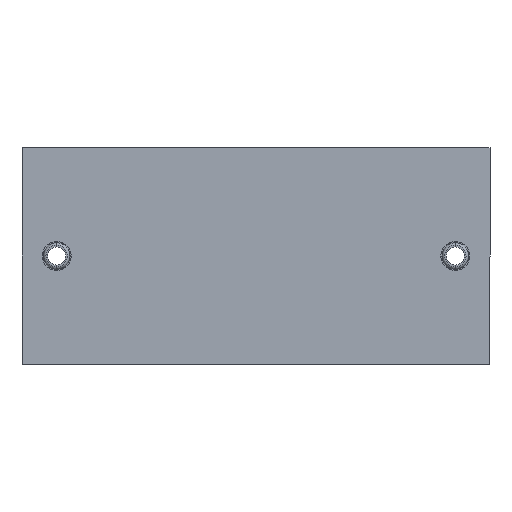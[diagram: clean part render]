
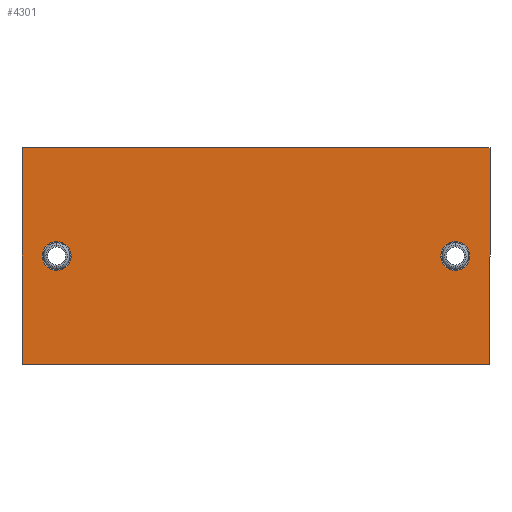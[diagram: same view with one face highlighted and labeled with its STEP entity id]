
A CAD part, front view. The second image highlights one B-rep face of the part: STEP entity #4301.
In plain terms, the highlighted planar face has unit normal (0, -1, 0).
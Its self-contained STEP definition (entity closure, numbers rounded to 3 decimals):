
#290 = VERTEX_POINT ( 'NONE', #13779 ) ;
#436 = ORIENTED_EDGE ( 'NONE', *, *, #15149, .F. ) ;
#525 = FACE_BOUND ( 'NONE', #15447, .T. ) ;
#715 = EDGE_CURVE ( 'NONE', #13722, #18007, #2105, .T. ) ;
#841 = VECTOR ( 'NONE', #21264, 1000. ) ;
#877 = AXIS2_PLACEMENT_3D ( 'NONE', #15102, #15246, #13052 ) ;
#1395 = DIRECTION ( 'NONE',  ( 0., 1., 0. ) ) ;
#1432 = DIRECTION ( 'NONE',  ( 1., 0., 0. ) ) ;
#1435 = AXIS2_PLACEMENT_3D ( 'NONE', #8102, #1395, #13229 ) ;
#1548 = FACE_OUTER_BOUND ( 'NONE', #1641, .T. ) ;
#1641 = EDGE_LOOP ( 'NONE', ( #9123, #10666, #436, #10411 ) ) ;
#2105 = CIRCLE ( 'NONE', #1435, 3.35 ) ;
#2137 = ORIENTED_EDGE ( 'NONE', *, *, #3653, .F. ) ;
#2320 = VERTEX_POINT ( 'NONE', #14684 ) ;
#2382 = CIRCLE ( 'NONE', #877, 3.35 ) ;
#2853 = CARTESIAN_POINT ( 'NONE',  ( 108., 0., 0. ) ) ;
#2970 = ORIENTED_EDGE ( 'NONE', *, *, #19352, .F. ) ;
#3653 = EDGE_CURVE ( 'NONE', #3951, #290, #2382, .T. ) ;
#3863 = CARTESIAN_POINT ( 'NONE',  ( 8., 0., -21.65 ) ) ;
#3951 = VERTEX_POINT ( 'NONE', #3863 ) ;
#4301 = ADVANCED_FACE ( 'NONE', ( #9296, #525, #1548 ), #6375, .T. ) ;
#4415 = CARTESIAN_POINT ( 'NONE',  ( 0., 0., -50. ) ) ;
#4728 = CARTESIAN_POINT ( 'NONE',  ( 0., 0., 0. ) ) ;
#5118 = VERTEX_POINT ( 'NONE', #20449 ) ;
#5202 = ORIENTED_EDGE ( 'NONE', *, *, #12033, .T. ) ;
#5259 = EDGE_CURVE ( 'NONE', #5118, #2320, #18116, .T. ) ;
#5424 = DIRECTION ( 'NONE',  ( 0., -1., 0. ) ) ;
#5870 = DIRECTION ( 'NONE',  ( 0., 1., 0. ) ) ;
#6183 = VECTOR ( 'NONE', #20530, 1000. ) ;
#6375 = PLANE ( 'NONE',  #16592 ) ;
#7196 = LINE ( 'NONE', #17228, #6183 ) ;
#7942 = DIRECTION ( 'NONE',  ( 0., -1., 0. ) ) ;
#8059 = CARTESIAN_POINT ( 'NONE',  ( 100., 0., -28.35 ) ) ;
#8102 = CARTESIAN_POINT ( 'NONE',  ( 100., 0., -25. ) ) ;
#8559 = VERTEX_POINT ( 'NONE', #14833 ) ;
#8561 = LINE ( 'NONE', #18023, #841 ) ;
#8731 = CIRCLE ( 'NONE', #14615, 3.35 ) ;
#9123 = ORIENTED_EDGE ( 'NONE', *, *, #13226, .F. ) ;
#9296 = FACE_BOUND ( 'NONE', #11803, .T. ) ;
#10411 = ORIENTED_EDGE ( 'NONE', *, *, #5259, .F. ) ;
#10666 = ORIENTED_EDGE ( 'NONE', *, *, #12311, .F. ) ;
#10876 = CIRCLE ( 'NONE', #15962, 3.35 ) ;
#11803 = EDGE_LOOP ( 'NONE', ( #5202, #18535 ) ) ;
#12033 = EDGE_CURVE ( 'NONE', #18007, #13722, #10876, .T. ) ;
#12311 = EDGE_CURVE ( 'NONE', #8559, #17834, #8561, .T. ) ;
#13052 = DIRECTION ( 'NONE',  ( 0., 0., -1. ) ) ;
#13226 = EDGE_CURVE ( 'NONE', #17834, #5118, #7196, .T. ) ;
#13229 = DIRECTION ( 'NONE',  ( 0., 0., -1. ) ) ;
#13722 = VERTEX_POINT ( 'NONE', #16743 ) ;
#13779 = CARTESIAN_POINT ( 'NONE',  ( 8., 0., -28.35 ) ) ;
#14374 = DIRECTION ( 'NONE',  ( 0., 0., -1. ) ) ;
#14615 = AXIS2_PLACEMENT_3D ( 'NONE', #15291, #5424, #16930 ) ;
#14684 = CARTESIAN_POINT ( 'NONE',  ( 108., 0., 0. ) ) ;
#14833 = CARTESIAN_POINT ( 'NONE',  ( 108., 0., -50. ) ) ;
#15102 = CARTESIAN_POINT ( 'NONE',  ( 8., 0., -25. ) ) ;
#15149 = EDGE_CURVE ( 'NONE', #2320, #8559, #21116, .T. ) ;
#15246 = DIRECTION ( 'NONE',  ( 0., -1., 0. ) ) ;
#15291 = CARTESIAN_POINT ( 'NONE',  ( 8., 0., -25. ) ) ;
#15447 = EDGE_LOOP ( 'NONE', ( #2970, #2137 ) ) ;
#15738 = CARTESIAN_POINT ( 'NONE',  ( 100., 0., -25. ) ) ;
#15962 = AXIS2_PLACEMENT_3D ( 'NONE', #15738, #5870, #17418 ) ;
#16592 = AXIS2_PLACEMENT_3D ( 'NONE', #4728, #7942, #17894 ) ;
#16732 = VECTOR ( 'NONE', #14374, 1000. ) ;
#16743 = CARTESIAN_POINT ( 'NONE',  ( 100., 0., -21.65 ) ) ;
#16930 = DIRECTION ( 'NONE',  ( 0., 0., -1. ) ) ;
#17228 = CARTESIAN_POINT ( 'NONE',  ( 0., 0., 0. ) ) ;
#17418 = DIRECTION ( 'NONE',  ( 0., 0., -1. ) ) ;
#17610 = VECTOR ( 'NONE', #1432, 1000. ) ;
#17834 = VERTEX_POINT ( 'NONE', #4415 ) ;
#17894 = DIRECTION ( 'NONE',  ( 0., 0., -1. ) ) ;
#18007 = VERTEX_POINT ( 'NONE', #8059 ) ;
#18023 = CARTESIAN_POINT ( 'NONE',  ( 0., 0., -50. ) ) ;
#18116 = LINE ( 'NONE', #19516, #17610 ) ;
#18535 = ORIENTED_EDGE ( 'NONE', *, *, #715, .T. ) ;
#19352 = EDGE_CURVE ( 'NONE', #290, #3951, #8731, .T. ) ;
#19516 = CARTESIAN_POINT ( 'NONE',  ( 0., 0., 0. ) ) ;
#20449 = CARTESIAN_POINT ( 'NONE',  ( 0., 0., 0. ) ) ;
#20530 = DIRECTION ( 'NONE',  ( 0., 0., 1. ) ) ;
#21116 = LINE ( 'NONE', #2853, #16732 ) ;
#21264 = DIRECTION ( 'NONE',  ( -1., 0., 0. ) ) ;
